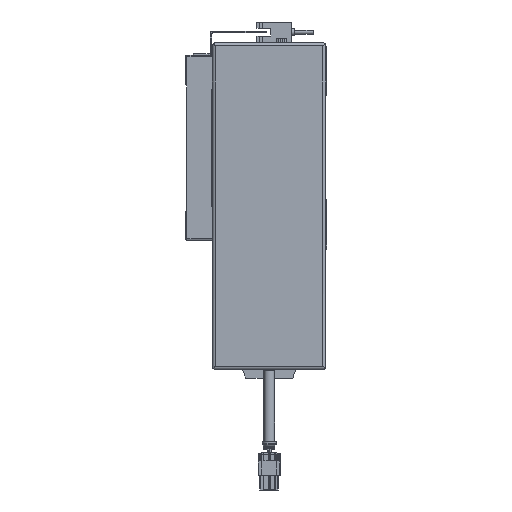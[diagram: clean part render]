
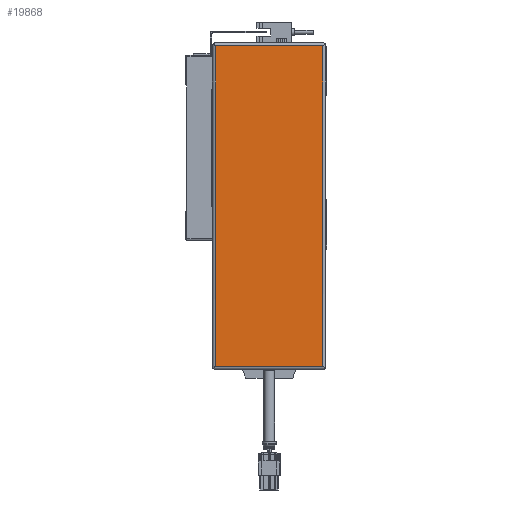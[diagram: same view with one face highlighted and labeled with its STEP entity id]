
A CAD part, left-side view. The second image highlights one B-rep face of the part: STEP entity #19868.
In plain terms, the highlighted planar face has unit normal (-1, 0, 0).
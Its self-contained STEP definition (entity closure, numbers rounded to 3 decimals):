
#4738=ORIENTED_EDGE('',*,*,#8424,.F.);
#4739=ORIENTED_EDGE('',*,*,#8425,.F.);
#4740=ORIENTED_EDGE('',*,*,#8426,.T.);
#4741=ORIENTED_EDGE('',*,*,#8427,.T.);
#8424=EDGE_CURVE('',#10611,#10612,#12718,.T.);
#8425=EDGE_CURVE('',#10613,#10611,#12719,.T.);
#8426=EDGE_CURVE('',#10613,#10614,#12720,.T.);
#8427=EDGE_CURVE('',#10614,#10612,#12721,.T.);
#10611=VERTEX_POINT('',#31710);
#10612=VERTEX_POINT('',#31711);
#10613=VERTEX_POINT('',#31713);
#10614=VERTEX_POINT('',#31715);
#12718=LINE('',#31709,#14815);
#12719=LINE('',#31712,#14816);
#12720=LINE('',#31714,#14817);
#12721=LINE('',#31716,#14818);
#14815=VECTOR('',#25837,1000.);
#14816=VECTOR('',#25838,1000.);
#14817=VECTOR('',#25839,1000.);
#14818=VECTOR('',#25840,1000.);
#16383=EDGE_LOOP('',(#4738,#4739,#4740,#4741));
#17818=FACE_BOUND('',#16383,.T.);
#18884=PLANE('',#21476);
#19868=ADVANCED_FACE('',(#17818),#18884,.F.);
#21476=AXIS2_PLACEMENT_3D('',#31708,#25835,#25836);
#25835=DIRECTION('',(1.,0.,0.));
#25836=DIRECTION('',(0.,0.,-1.));
#25837=DIRECTION('',(0.,0.,-1.));
#25838=DIRECTION('',(0.,-1.,0.));
#25839=DIRECTION('',(0.,0.,-1.));
#25840=DIRECTION('',(0.,-1.,0.));
#31708=CARTESIAN_POINT('',(-52.,2.,34.5));
#31709=CARTESIAN_POINT('',(-52.,2.,36.5));
#31710=CARTESIAN_POINT('',(-52.,2.,34.5));
#31711=CARTESIAN_POINT('',(-52.,2.,-34.5));
#31712=CARTESIAN_POINT('',(-52.,210.,34.5));
#31713=CARTESIAN_POINT('',(-52.,208.,34.5));
#31714=CARTESIAN_POINT('',(-52.,208.,36.5));
#31715=CARTESIAN_POINT('',(-52.,208.,-34.5));
#31716=CARTESIAN_POINT('',(-52.,210.,-34.5));
